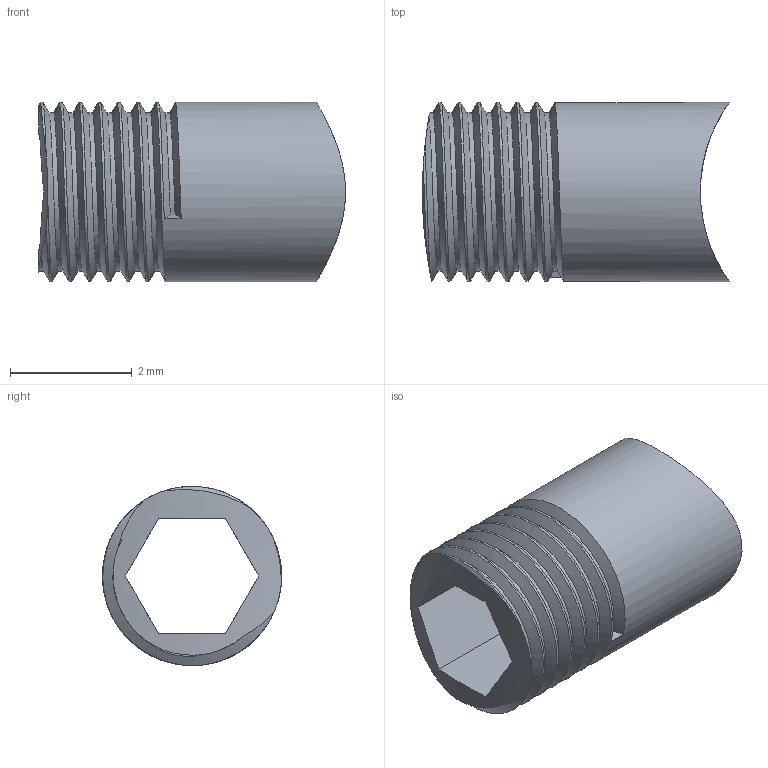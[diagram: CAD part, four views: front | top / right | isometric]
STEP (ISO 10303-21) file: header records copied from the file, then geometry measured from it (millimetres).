
FILE_DESCRIPTION(/* description */ ('STEP AP242 Edition 2','CAx-IF Rec.Pracs.---Representation and Presentation of Product Manufacturing Information (PMI)---4.0---2014-10-13','CAx-IF Rec.Pracs.---3D Tessellated Geometry---0.4---2014-09-14','2;1','CAx-IF Rec.Pracs.---User Defined Attributes---1.5---2016-08-15'),/* implementation_level */ '2;1');
FILE_NAME(/* name */ 'Final Build - Timing Pulley screw (3)',/* time_stamp */ '2026-08-31T23:26:27Z',/* author */ (''),/* organization */ (''),/* preprocessor_version */ 'ST-DEVELOPER v20',/* originating_system */ 'ONSHAPE BY PTC INC, 1.220',/* authorisation */ ' ');
FILE_SCHEMA (('AP242_MANAGED_MODEL_BASED_3D_ENGINEERING_MIM_LF { 1 0 10303 442 3 1 4 }'));
Length unit declared in the file: metre
Products named in the file (1): Timing Pulley screw
Bounding box: 5.05 x 2.95 x 2.95 mm (x, y, z)
Volume: 15.4 mm3; surface area: 91.3 mm2
Topology: 1 solids, 1 shells, 22 faces, 66 edges, 46 vertices
Faces by surface type: cylinder 11, plane 7, cone 2, bspline 2
Full cylindrical faces by diameter (mm): 2.95 x6
Entity records: 1480 total; most frequent: CARTESIAN_POINT 1068, ORIENTED_EDGE 92, DIRECTION 64, EDGE_CURVE 46, VERTEX_POINT 33, AXIS2_PLACEMENT_3D 27, B_SPLINE_CURVE_WITH_KNOTS 24, EDGE_LOOP 19
